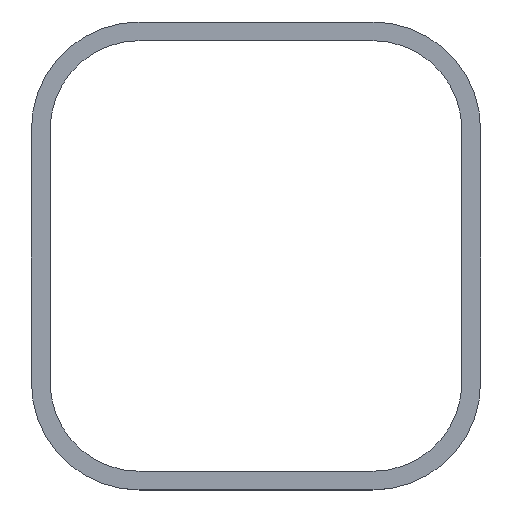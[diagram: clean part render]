
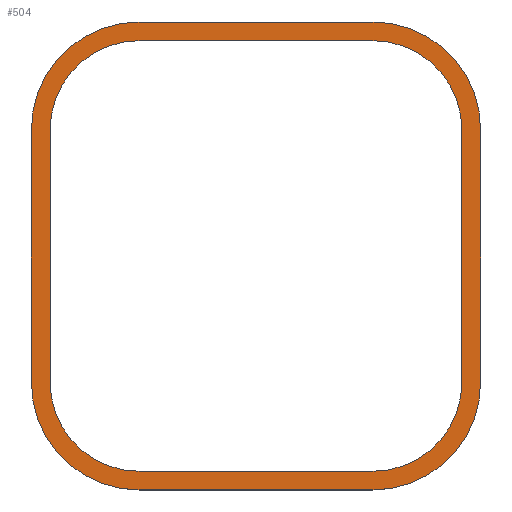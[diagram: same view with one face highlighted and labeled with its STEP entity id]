
A CAD part, top view. The second image highlights one B-rep face of the part: STEP entity #504.
In plain terms, the highlighted planar face has unit normal (0, 0, 1).
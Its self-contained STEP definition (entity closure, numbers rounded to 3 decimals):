
#16=FACE_BOUND('',#80,.T.);
#27=PLANE('',#563);
#51=FACE_OUTER_BOUND('',#79,.T.);
#79=EDGE_LOOP('',(#414,#415,#416,#417,#418,#419,#420,#421));
#80=EDGE_LOOP('',(#422,#423,#424,#425,#426,#427,#428,#429));
#113=LINE('',#805,#161);
#116=LINE('',#813,#164);
#119=LINE('',#821,#167);
#121=LINE('',#827,#169);
#124=LINE('',#839,#172);
#125=LINE('',#843,#173);
#126=LINE('',#847,#174);
#127=LINE('',#850,#175);
#161=VECTOR('',#651,10.);
#164=VECTOR('',#660,10.);
#167=VECTOR('',#669,10.);
#169=VECTOR('',#677,10.);
#172=VECTOR('',#688,10.);
#173=VECTOR('',#691,10.);
#174=VECTOR('',#694,10.);
#175=VECTOR('',#697,10.);
#198=CIRCLE('',#549,9.5);
#199=CIRCLE('',#552,9.5);
#200=CIRCLE('',#555,9.5);
#201=CIRCLE('',#558,9.5);
#203=CIRCLE('',#562,11.5);
#204=CIRCLE('',#564,11.5);
#205=CIRCLE('',#565,11.5);
#206=CIRCLE('',#566,11.5);
#234=VERTEX_POINT('',#797);
#235=VERTEX_POINT('',#799);
#236=VERTEX_POINT('',#803);
#237=VERTEX_POINT('',#807);
#238=VERTEX_POINT('',#811);
#239=VERTEX_POINT('',#815);
#240=VERTEX_POINT('',#817);
#241=VERTEX_POINT('',#823);
#242=VERTEX_POINT('',#829);
#245=VERTEX_POINT('',#834);
#246=VERTEX_POINT('',#838);
#247=VERTEX_POINT('',#840);
#248=VERTEX_POINT('',#842);
#249=VERTEX_POINT('',#844);
#250=VERTEX_POINT('',#846);
#251=VERTEX_POINT('',#848);
#291=EDGE_CURVE('',#235,#234,#198,.T.);
#294=EDGE_CURVE('',#234,#236,#113,.T.);
#296=EDGE_CURVE('',#236,#237,#199,.T.);
#298=EDGE_CURVE('',#237,#238,#116,.T.);
#300=EDGE_CURVE('',#240,#239,#200,.T.);
#302=EDGE_CURVE('',#239,#235,#119,.T.);
#304=EDGE_CURVE('',#238,#241,#201,.T.);
#305=EDGE_CURVE('',#241,#240,#121,.T.);
#309=EDGE_CURVE('',#242,#245,#203,.T.);
#310=EDGE_CURVE('',#245,#246,#124,.T.);
#311=EDGE_CURVE('',#246,#247,#204,.T.);
#312=EDGE_CURVE('',#247,#248,#125,.T.);
#313=EDGE_CURVE('',#248,#249,#205,.T.);
#314=EDGE_CURVE('',#249,#250,#126,.T.);
#315=EDGE_CURVE('',#250,#251,#206,.T.);
#316=EDGE_CURVE('',#251,#242,#127,.T.);
#414=ORIENTED_EDGE('',*,*,#310,.T.);
#415=ORIENTED_EDGE('',*,*,#311,.T.);
#416=ORIENTED_EDGE('',*,*,#312,.T.);
#417=ORIENTED_EDGE('',*,*,#313,.T.);
#418=ORIENTED_EDGE('',*,*,#314,.T.);
#419=ORIENTED_EDGE('',*,*,#315,.T.);
#420=ORIENTED_EDGE('',*,*,#316,.T.);
#421=ORIENTED_EDGE('',*,*,#309,.T.);
#422=ORIENTED_EDGE('',*,*,#296,.T.);
#423=ORIENTED_EDGE('',*,*,#298,.T.);
#424=ORIENTED_EDGE('',*,*,#304,.T.);
#425=ORIENTED_EDGE('',*,*,#305,.T.);
#426=ORIENTED_EDGE('',*,*,#300,.T.);
#427=ORIENTED_EDGE('',*,*,#302,.T.);
#428=ORIENTED_EDGE('',*,*,#291,.T.);
#429=ORIENTED_EDGE('',*,*,#294,.T.);
#504=ADVANCED_FACE('',(#51,#16),#27,.T.);
#549=AXIS2_PLACEMENT_3D('',#800,#645,#646);
#552=AXIS2_PLACEMENT_3D('',#809,#655,#656);
#555=AXIS2_PLACEMENT_3D('',#818,#664,#665);
#558=AXIS2_PLACEMENT_3D('',#825,#673,#674);
#562=AXIS2_PLACEMENT_3D('',#836,#684,#685);
#563=AXIS2_PLACEMENT_3D('',#837,#686,#687);
#564=AXIS2_PLACEMENT_3D('',#841,#689,#690);
#565=AXIS2_PLACEMENT_3D('',#845,#692,#693);
#566=AXIS2_PLACEMENT_3D('',#849,#695,#696);
#645=DIRECTION('center_axis',(0.,0.,-1.));
#646=DIRECTION('ref_axis',(1.,0.,0.));
#651=DIRECTION('',(-1.,0.,0.));
#655=DIRECTION('center_axis',(0.,0.,-1.));
#656=DIRECTION('ref_axis',(1.,0.,0.));
#660=DIRECTION('',(0.,1.,0.));
#664=DIRECTION('center_axis',(0.,0.,-1.));
#665=DIRECTION('ref_axis',(1.,0.,0.));
#669=DIRECTION('',(0.,-1.,0.));
#673=DIRECTION('center_axis',(0.,0.,-1.));
#674=DIRECTION('ref_axis',(1.,0.,0.));
#677=DIRECTION('',(1.,0.,0.));
#684=DIRECTION('center_axis',(0.,0.,1.));
#685=DIRECTION('ref_axis',(1.,0.,0.));
#686=DIRECTION('center_axis',(0.,0.,1.));
#687=DIRECTION('ref_axis',(1.,0.,0.));
#688=DIRECTION('',(-1.,0.,0.));
#689=DIRECTION('center_axis',(0.,0.,1.));
#690=DIRECTION('ref_axis',(1.,0.,0.));
#691=DIRECTION('',(0.,-1.,0.));
#692=DIRECTION('center_axis',(0.,0.,1.));
#693=DIRECTION('ref_axis',(1.,0.,0.));
#694=DIRECTION('',(1.,0.,0.));
#695=DIRECTION('center_axis',(0.,0.,1.));
#696=DIRECTION('ref_axis',(1.,0.,0.));
#697=DIRECTION('',(0.,1.,0.));
#797=CARTESIAN_POINT('',(12.5,14.5,0.55));
#799=CARTESIAN_POINT('',(22.,24.,0.55));
#800=CARTESIAN_POINT('Origin',(12.5,24.,0.55));
#803=CARTESIAN_POINT('',(-12.5,14.5,0.55));
#805=CARTESIAN_POINT('',(0.,14.5,0.55));
#807=CARTESIAN_POINT('',(-22.,24.,0.55));
#809=CARTESIAN_POINT('Origin',(-12.5,24.,0.55));
#811=CARTESIAN_POINT('',(-22.,51.,0.55));
#813=CARTESIAN_POINT('',(-22.,37.5,0.55));
#815=CARTESIAN_POINT('',(22.,51.,0.55));
#817=CARTESIAN_POINT('',(12.5,60.5,0.55));
#818=CARTESIAN_POINT('Origin',(12.5,51.,0.55));
#821=CARTESIAN_POINT('',(22.,37.5,0.55));
#823=CARTESIAN_POINT('',(-12.5,60.5,0.55));
#825=CARTESIAN_POINT('Origin',(-12.5,51.,0.55));
#827=CARTESIAN_POINT('',(0.,60.5,0.55));
#829=CARTESIAN_POINT('',(24.,51.,0.55));
#834=CARTESIAN_POINT('',(12.5,62.5,0.55));
#836=CARTESIAN_POINT('Origin',(12.5,51.,0.55));
#837=CARTESIAN_POINT('Origin',(0.,37.5,0.55));
#838=CARTESIAN_POINT('',(-12.5,62.5,0.55));
#839=CARTESIAN_POINT('',(0.,62.5,0.55));
#840=CARTESIAN_POINT('',(-24.,51.,0.55));
#841=CARTESIAN_POINT('Origin',(-12.5,51.,0.55));
#842=CARTESIAN_POINT('',(-24.,24.,0.55));
#843=CARTESIAN_POINT('',(-24.,37.5,0.55));
#844=CARTESIAN_POINT('',(-12.5,12.5,0.55));
#845=CARTESIAN_POINT('Origin',(-12.5,24.,0.55));
#846=CARTESIAN_POINT('',(12.5,12.5,0.55));
#847=CARTESIAN_POINT('',(0.,12.5,0.55));
#848=CARTESIAN_POINT('',(24.,24.,0.55));
#849=CARTESIAN_POINT('Origin',(12.5,24.,0.55));
#850=CARTESIAN_POINT('',(24.,37.5,0.55));
